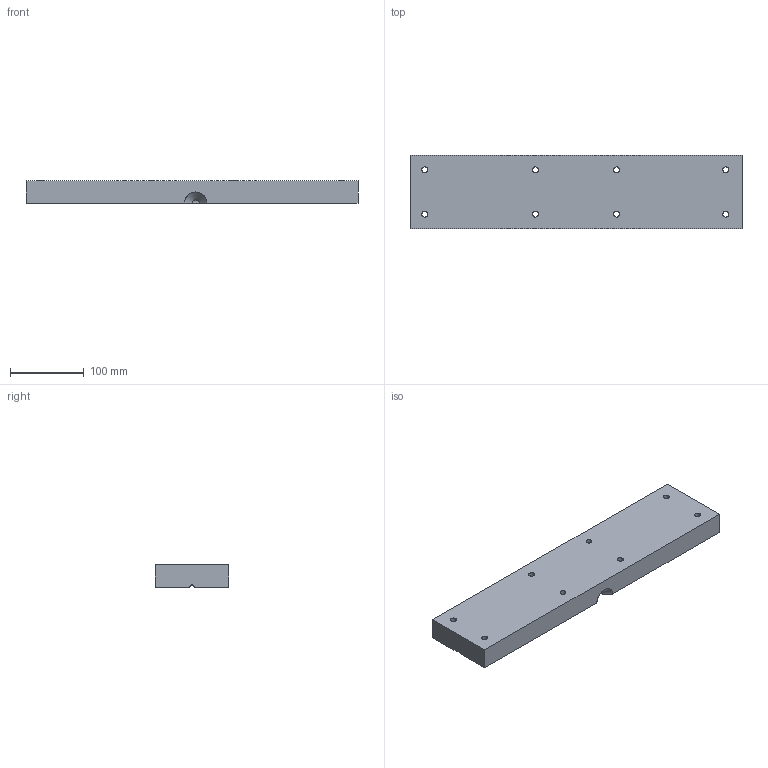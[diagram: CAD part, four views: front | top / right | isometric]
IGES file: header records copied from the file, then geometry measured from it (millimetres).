
Start section: SolidWorks IGES FILE using analytic representation for surfaces
Global section: file name: D:\1M\bulbmoldylä.IGS; native system: SolidWorks 2000 by SolidWorks Corporation; preprocessor: Version 5.2; author: Rami Wessman; date: 030107.223044; units: millimetre
Bounding box: 450 x 100 x 30 mm (x, y, z)
Surface area: 136772.1 mm2 (no closed solid volume)
Topology: 0 solids, 0 shells, 47 faces, 901 edges, 897 vertices
Faces by surface type: revolution 33, bspline 14
